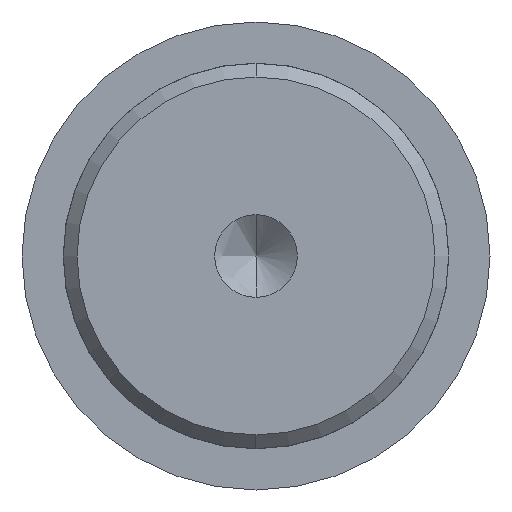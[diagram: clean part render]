
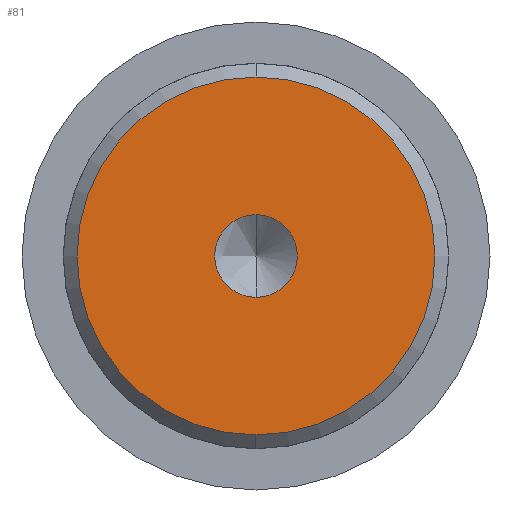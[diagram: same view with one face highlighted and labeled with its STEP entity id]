
A CAD part, left-side view. The second image highlights one B-rep face of the part: STEP entity #81.
In plain terms, the highlighted free-form (B-spline) face has degree [1, 1] with [2, 2] control points.
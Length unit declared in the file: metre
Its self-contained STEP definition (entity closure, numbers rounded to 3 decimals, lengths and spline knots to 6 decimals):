
#81 = ADVANCED_FACE( '', ( #116, #117 ), #118, .T. );
#116 = FACE_BOUND( '', #186, .T. );
#117 = FACE_OUTER_BOUND( '', #187, .T. );
#118 = B_SPLINE_SURFACE_WITH_KNOTS( '', 1, 1, ( ( #188, #189 ), ( #190, #191 ) ), .UNSPECIFIED., .F., .F., .F., ( 2, 2 ), ( 2, 2 ), ( 0., 1. ), ( 0., 1. ), .UNSPECIFIED. );
#186 = EDGE_LOOP( '', ( #345, #346 ) );
#187 = EDGE_LOOP( '', ( #347, #348 ) );
#188 = CARTESIAN_POINT( '', ( -0.044, -0.013156, -0.013156 ) );
#189 = CARTESIAN_POINT( '', ( -0.044, 0.013156, -0.013156 ) );
#190 = CARTESIAN_POINT( '', ( -0.044, -0.013156, 0.013156 ) );
#191 = CARTESIAN_POINT( '', ( -0.044, 0.013156, 0.013156 ) );
#345 = ORIENTED_EDGE( '', *, *, #522, .T. );
#346 = ORIENTED_EDGE( '', *, *, #520, .T. );
#347 = ORIENTED_EDGE( '', *, *, #523, .T. );
#348 = ORIENTED_EDGE( '', *, *, #524, .T. );
#520 = EDGE_CURVE( '', #582, #580, #583, .T. );
#522 = EDGE_CURVE( '', #580, #582, #585, .T. );
#523 = EDGE_CURVE( '', #586, #587, #588, .F. );
#524 = EDGE_CURVE( '', #587, #586, #589, .F. );
#580 = VERTEX_POINT( '', #673 );
#582 = VERTEX_POINT( '', #676 );
#583 = CIRCLE( '', #677, 0.003 );
#585 = CIRCLE( '', #680, 0.003 );
#586 = VERTEX_POINT( '', #681 );
#587 = VERTEX_POINT( '', #682 );
#588 = CIRCLE( '', #683, 0.013 );
#589 = CIRCLE( '', #684, 0.013 );
#673 = CARTESIAN_POINT( '', ( -0.044, 0., -0.003 ) );
#676 = CARTESIAN_POINT( '', ( -0.044, 0., 0.003 ) );
#677 = AXIS2_PLACEMENT_3D( '', #806, #807, #808 );
#680 = AXIS2_PLACEMENT_3D( '', #810, #811, #812 );
#681 = CARTESIAN_POINT( '', ( -0.044, 0., 0.013 ) );
#682 = CARTESIAN_POINT( '', ( -0.044, 0., -0.013 ) );
#683 = AXIS2_PLACEMENT_3D( '', #813, #814, #815 );
#684 = AXIS2_PLACEMENT_3D( '', #816, #817, #818 );
#806 = CARTESIAN_POINT( '', ( -0.044, 0., 0. ) );
#807 = DIRECTION( '', ( 1., 0., 0. ) );
#808 = DIRECTION( '', ( 0., 0., -1. ) );
#810 = CARTESIAN_POINT( '', ( -0.044, 0., 0. ) );
#811 = DIRECTION( '', ( 1., 0., 0. ) );
#812 = DIRECTION( '', ( 0., 0., -1. ) );
#813 = CARTESIAN_POINT( '', ( -0.044, 0., 0. ) );
#814 = DIRECTION( '', ( 1., 0., 0. ) );
#815 = DIRECTION( '', ( 0., 0., -1. ) );
#816 = CARTESIAN_POINT( '', ( -0.044, 0., 0. ) );
#817 = DIRECTION( '', ( 1., 0., 0. ) );
#818 = DIRECTION( '', ( 0., 0., -1. ) );
